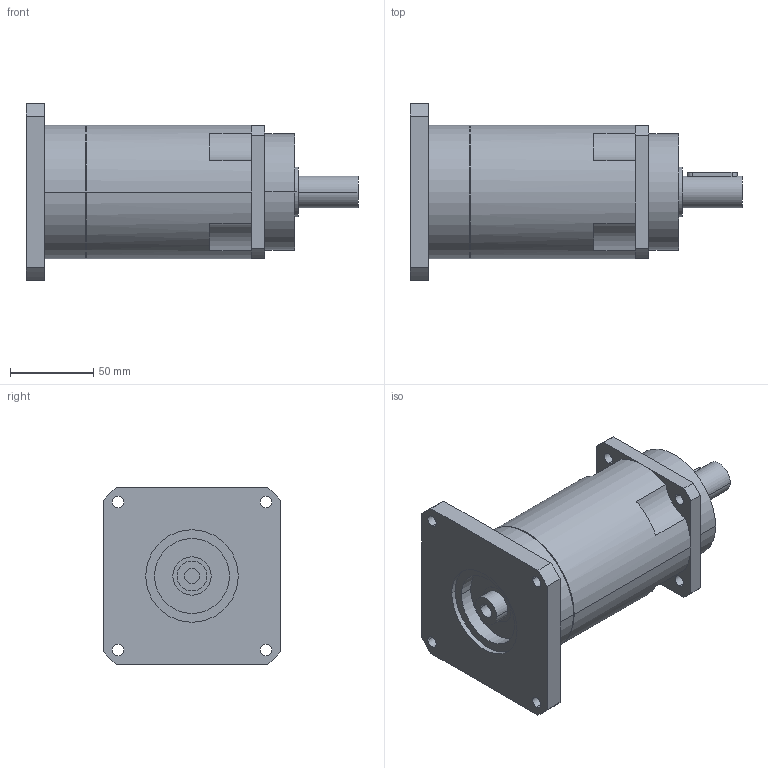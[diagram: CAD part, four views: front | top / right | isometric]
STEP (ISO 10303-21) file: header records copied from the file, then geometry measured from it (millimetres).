
FILE_DESCRIPTION(('CoCreate Modeling STEP Export'),'2;1');
FILE_NAME('GPR100_ig-48-64-80-100-120-144-180-216_19_B5_9_P02.stp','2014-08-26T13:05:03',(''),(''),'CoCreate Modeling STEP processor for AP214 (Solid Model)','CoCreate Modeling 16.00C 25-Feb-2009 (C) Parametric Technology GmbH','');
FILE_SCHEMA(('AUTOMOTIVE_DESIGN { 1 0 10303 214 1 1 1 1 }'));
Length unit declared in the file: millimetre
Products named in the file (2): GPR100_ig-48-64-80-100-120-144-180-216_19_B5_9_P02
Assembly tree (1 placements, depth 2):
  GPR100_ig-48-64-80-100-120-144-180-216_19_B5_9_P02
    GPR100_ig-48-64-80-100-120-144-180-216_19_B5_9_P02
Bounding box: 199.4 x 106.5 x 106.5 mm (x, y, z)
Volume: 849675.4 mm3; surface area: 75003.9 mm2
Topology: 1 solids, 1 shells, 89 faces, 247 edges, 169 vertices
Faces by surface type: cylinder 52, plane 31, cone 6
Entity records: 2612 total; most frequent: ORIENTED_EDGE 490, CARTESIAN_POINT 474, DIRECTION 386, EDGE_CURVE 245, VERTEX_POINT 169, AXIS2_PLACEMENT_3D 145, EDGE_LOOP 116, VECTOR 96
